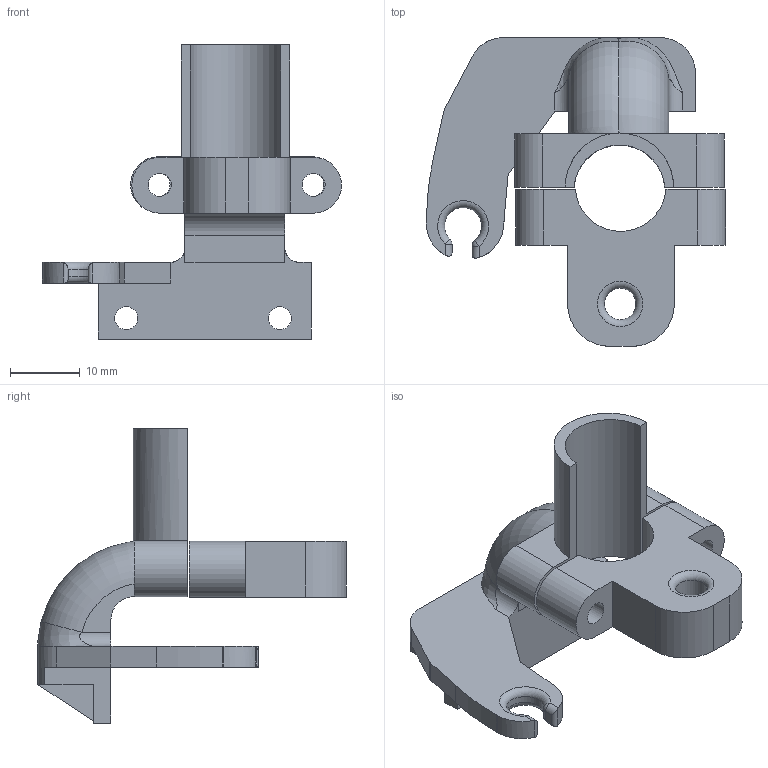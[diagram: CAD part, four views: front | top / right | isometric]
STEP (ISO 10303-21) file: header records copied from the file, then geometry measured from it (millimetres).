
FILE_DESCRIPTION(/* description */ (''),/* implementation_level */ '2;1');
FILE_NAME(/* name */ 'D:/Down/Druck/Bowden-HalterV42.step',/* time_stamp */ '2022-02-09T16:29:59+07:00',/* author */ (''),/* organization */ (''),/* preprocessor_version */ 'ST-DEVELOPER v18.1',/* originating_system */ 'Autodesk Translation Framework v10.13.0.1454',/* authorisation */ '');
FILE_SCHEMA (('AUTOMOTIVE_DESIGN { 1 0 10303 214 3 1 1 }'));
Length unit declared in the file: millimetre
Products named in the file (4): Bowden-Halter; Halterklemmen; Komponente7; Kabelhalter
Assembly tree (3 placements, depth 3):
  Bowden-Halter
    Halterklemmen
      Komponente7
    Kabelhalter
Bounding box: 42.78 x 44.18 x 42.09 mm (x, y, z)
Volume: 8775.3 mm3; surface area: 6045.4 mm2
Topology: 2 solids, 2 shells, 101 faces, 270 edges, 173 vertices
Faces by surface type: plane 54, cylinder 33, torus 6, bspline 6, sphere 2
Full cylindrical faces by diameter (mm): 3.3 x6, 4.5 x1
Entity records: 3587 total; most frequent: CARTESIAN_POINT 934, ORIENTED_EDGE 536, DIRECTION 527, EDGE_CURVE 268, AXIS2_PLACEMENT_3D 178, VERTEX_POINT 173, LINE 171, VECTOR 171
